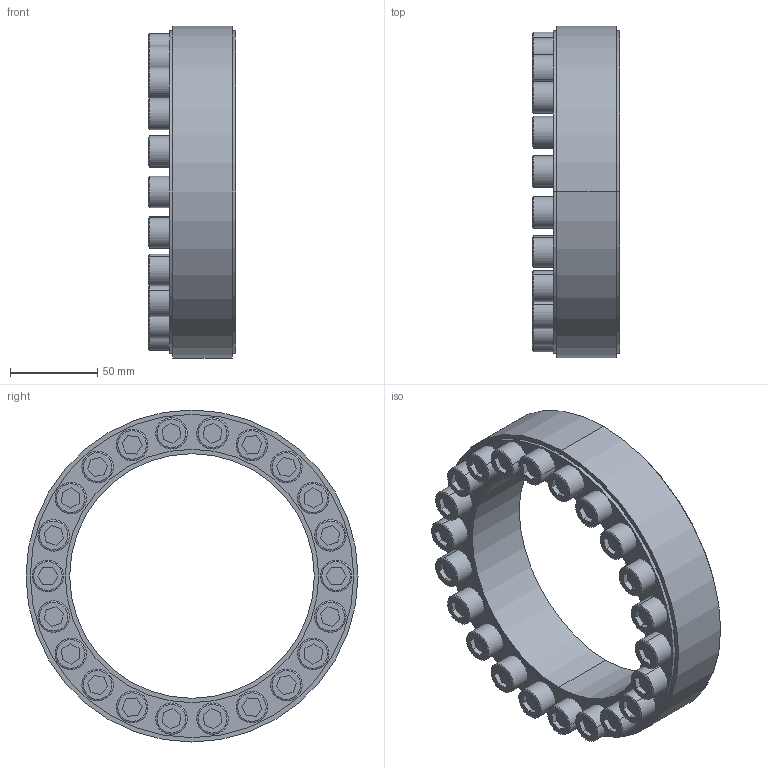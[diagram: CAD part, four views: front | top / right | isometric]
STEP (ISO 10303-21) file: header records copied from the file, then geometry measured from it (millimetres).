
FILE_DESCRIPTION (( 'STEP AP203' ), '1' );
FILE_NAME ('SA-140.step', '2009-09-29T15:22:38', ( 'USER' ), ( 'HOME' ), 'SwSTEP 2.0', 'SolidWorks 2007', '' );
FILE_SCHEMA (( 'CONFIG_CONTROL_DESIGN' ));
Length unit declared in the file: millimetre
Products named in the file (1): SA-140
Bounding box: 50 x 190 x 190 mm (x, y, z)
Volume: 549009.9 mm3; surface area: 214215.5 mm2
Topology: 25 solids, 25 shells, 422 faces, 932 edges, 604 vertices
Faces by surface type: plane 226, cylinder 136, cone 60
Entity records: 11769 total; most frequent: DIRECTION 2118, CARTESIAN_POINT 1959, ORIENTED_EDGE 1864, EDGE_CURVE 932, AXIS2_PLACEMENT_3D 763, VERTEX_POINT 604, LINE 592, VECTOR 592
